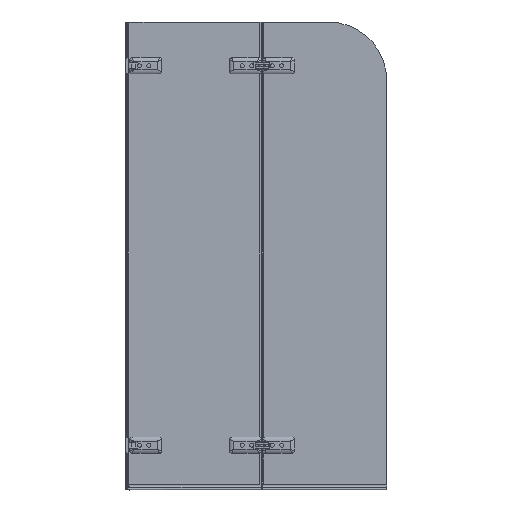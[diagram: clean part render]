
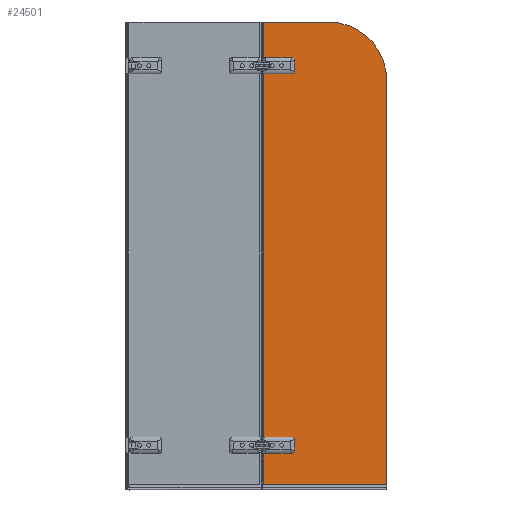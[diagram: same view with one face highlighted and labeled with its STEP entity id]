
A CAD part, left-side view. The second image highlights one B-rep face of the part: STEP entity #24501.
In plain terms, the highlighted planar face has unit normal (-1, 0, 0).
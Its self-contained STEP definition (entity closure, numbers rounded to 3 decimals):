
#395=FACE_BOUND($,#3648,.T.);
#396=FACE_BOUND($,#3649,.T.);
#397=FACE_BOUND($,#3650,.T.);
#3648=EDGE_LOOP($,(#20931));
#3649=EDGE_LOOP($,(#20932));
#3650=EDGE_LOOP($,(#20933,#20934,#20935,#20936,#20937,#20938,#20939,#20940,
#20941,#20942,#20943,#20944,#20945,#20946,#20947,#20948,#20949));
#4472=LINE($,#50669,#6633);
#4478=LINE($,#50717,#6639);
#4931=LINE($,#52866,#7092);
#5716=LINE($,#55711,#7877);
#5814=LINE($,#56114,#7975);
#5815=LINE($,#56117,#7976);
#5816=LINE($,#56119,#7977);
#5817=LINE($,#56123,#7978);
#5818=LINE($,#56126,#7979);
#5819=LINE($,#56128,#7980);
#5820=LINE($,#56132,#7981);
#5821=LINE($,#56135,#7982);
#6633=VECTOR($,#29151,1262.);
#6639=VECTOR($,#29167,116.4);
#7092=VECTOR($,#30496,131.);
#7877=VECTOR($,#32513,422.226);
#7975=VECTOR($,#32837,1385.4);
#7976=VECTOR($,#32840,223.747);
#7977=VECTOR($,#32841,30.747);
#7978=VECTOR($,#32844,18.);
#7979=VECTOR($,#32847,30.747);
#7980=VECTOR($,#32848,30.747);
#7981=VECTOR($,#32851,18.);
#7982=VECTOR($,#32854,29.226);
#8386=CIRCLE($,#25245,6.5);
#8556=CIRCLE($,#25679,6.5);
#8908=CIRCLE($,#26602,200.);
#8909=CIRCLE($,#26603,10.);
#8910=CIRCLE($,#26604,10.);
#8911=CIRCLE($,#26605,10.);
#8912=CIRCLE($,#26606,10.);
#9691=VERTEX_POINT($,#49830);
#9856=VERTEX_POINT($,#50666);
#9857=VERTEX_POINT($,#50668);
#9867=VERTEX_POINT($,#50705);
#9868=VERTEX_POINT($,#50716);
#10130=VERTEX_POINT($,#51931);
#10309=VERTEX_POINT($,#52863);
#10310=VERTEX_POINT($,#52865);
#11050=VERTEX_POINT($,#55709);
#11124=VERTEX_POINT($,#56113);
#11125=VERTEX_POINT($,#56115);
#11126=VERTEX_POINT($,#56118);
#11127=VERTEX_POINT($,#56120);
#11128=VERTEX_POINT($,#56122);
#11129=VERTEX_POINT($,#56124);
#11130=VERTEX_POINT($,#56127);
#11131=VERTEX_POINT($,#56129);
#11132=VERTEX_POINT($,#56131);
#11133=VERTEX_POINT($,#56133);
#12251=EDGE_CURVE($,#9691,#9691,#8386,.T.);
#12519=EDGE_CURVE($,#9857,#9856,#4472,.T.);
#12532=EDGE_CURVE($,#9868,#9867,#4478,.T.);
#12940=EDGE_CURVE($,#10130,#10130,#8556,.T.);
#13227=EDGE_CURVE($,#10310,#10309,#4931,.T.);
#14325=EDGE_CURVE($,#11050,#9867,#5716,.T.);
#14472=EDGE_CURVE($,#11050,#11124,#5814,.T.);
#14473=EDGE_CURVE($,#11125,#11124,#8908,.T.);
#14474=EDGE_CURVE($,#10310,#11125,#5815,.T.);
#14475=EDGE_CURVE($,#10309,#11126,#5816,.T.);
#14476=EDGE_CURVE($,#11127,#11126,#8909,.T.);
#14477=EDGE_CURVE($,#11127,#11128,#5817,.T.);
#14478=EDGE_CURVE($,#11129,#11128,#8910,.T.);
#14479=EDGE_CURVE($,#11129,#9857,#5818,.T.);
#14480=EDGE_CURVE($,#9856,#11130,#5819,.T.);
#14481=EDGE_CURVE($,#11131,#11130,#8911,.T.);
#14482=EDGE_CURVE($,#11131,#11132,#5820,.T.);
#14483=EDGE_CURVE($,#11133,#11132,#8912,.T.);
#14484=EDGE_CURVE($,#11133,#9868,#5821,.T.);
#20931=ORIENTED_EDGE($,*,*,#12251,.T.);
#20932=ORIENTED_EDGE($,*,*,#12940,.T.);
#20933=ORIENTED_EDGE($,*,*,#14325,.F.);
#20934=ORIENTED_EDGE($,*,*,#14472,.T.);
#20935=ORIENTED_EDGE($,*,*,#14473,.F.);
#20936=ORIENTED_EDGE($,*,*,#14474,.F.);
#20937=ORIENTED_EDGE($,*,*,#13227,.T.);
#20938=ORIENTED_EDGE($,*,*,#14475,.T.);
#20939=ORIENTED_EDGE($,*,*,#14476,.F.);
#20940=ORIENTED_EDGE($,*,*,#14477,.T.);
#20941=ORIENTED_EDGE($,*,*,#14478,.F.);
#20942=ORIENTED_EDGE($,*,*,#14479,.T.);
#20943=ORIENTED_EDGE($,*,*,#12519,.T.);
#20944=ORIENTED_EDGE($,*,*,#14480,.T.);
#20945=ORIENTED_EDGE($,*,*,#14481,.F.);
#20946=ORIENTED_EDGE($,*,*,#14482,.T.);
#20947=ORIENTED_EDGE($,*,*,#14483,.F.);
#20948=ORIENTED_EDGE($,*,*,#14484,.T.);
#20949=ORIENTED_EDGE($,*,*,#12532,.T.);
#22114=PLANE($,#26601);
#24501=ADVANCED_FACE($,(#395,#396,#397),#22114,.T.);
#25245=AXIS2_PLACEMENT_3D($,#49831,#28613,#28614);
#25679=AXIS2_PLACEMENT_3D($,#51932,#29928,#29929);
#26601=AXIS2_PLACEMENT_3D($,#56112,#32835,#32836);
#26602=AXIS2_PLACEMENT_3D($,#56116,#32838,#32839);
#26603=AXIS2_PLACEMENT_3D($,#56121,#32842,#32843);
#26604=AXIS2_PLACEMENT_3D($,#56125,#32845,#32846);
#26605=AXIS2_PLACEMENT_3D($,#56130,#32849,#32850);
#26606=AXIS2_PLACEMENT_3D($,#56134,#32852,#32853);
#28613=DIRECTION('center_axis',(1.,0.,0.));
#28614=DIRECTION('ref_axis',(0.,1.,0.));
#29151=DIRECTION($,(0.,0.,-1.));
#29167=DIRECTION($,(0.,0.,-1.));
#29928=DIRECTION('center_axis',(1.,0.,0.));
#29929=DIRECTION('ref_axis',(0.,1.,0.));
#30496=DIRECTION($,(0.,0.,-1.));
#32513=DIRECTION($,(0.,1.,0.));
#32835=DIRECTION('center_axis',(-1.,0.,0.));
#32836=DIRECTION('ref_axis',(0.,-1.,0.));
#32837=DIRECTION($,(0.,0.,1.));
#32838=DIRECTION('center_axis',(1.,0.,0.));
#32839=DIRECTION('ref_axis',(0.,-0.707,0.707));
#32840=DIRECTION($,(0.,-1.,0.));
#32841=DIRECTION($,(0.,-1.,0.));
#32842=DIRECTION('center_axis',(-1.,0.,0.));
#32843=DIRECTION('ref_axis',(0.,-0.707,0.707));
#32844=DIRECTION($,(0.,0.,-1.));
#32845=DIRECTION('center_axis',(-1.,0.,0.));
#32846=DIRECTION('ref_axis',(0.,-0.707,
-0.707));
#32847=DIRECTION($,(0.,1.,0.));
#32848=DIRECTION($,(0.,-1.,0.));
#32849=DIRECTION('center_axis',(-1.,0.,0.));
#32850=DIRECTION('ref_axis',(0.,-0.707,0.707));
#32851=DIRECTION($,(0.,0.,-1.));
#32852=DIRECTION('center_axis',(-1.,0.,0.));
#32853=DIRECTION('ref_axis',(0.,-0.707,
-0.707));
#32854=DIRECTION($,(0.,1.,0.));
#49830=CARTESIAN_POINT('',(1225.833,802.456,174.944));
#49831=CARTESIAN_POINT('Origin',(1225.833,808.956,174.944));
#50666=CARTESIAN_POINT('',(1225.833,872.703,193.944));
#50668=CARTESIAN_POINT('',(1225.833,872.703,1455.944));
#50669=CARTESIAN_POINT($,(1225.833,872.703,184.944));
#50705=CARTESIAN_POINT('',(1225.833,871.182,39.544));
#50716=CARTESIAN_POINT('',(1225.833,871.182,155.944));
#50717=CARTESIAN_POINT($,(1225.833,871.182,164.944));
#51931=CARTESIAN_POINT('',(1225.833,802.456,1474.944));
#51932=CARTESIAN_POINT('Origin',(1225.833,808.956,1474.944));
#52863=CARTESIAN_POINT('',(1225.833,872.703,1493.944));
#52865=CARTESIAN_POINT('',(1225.833,872.703,1624.944));
#52866=CARTESIAN_POINT($,(1225.833,872.703,1484.944));
#55709=CARTESIAN_POINT('',(1225.833,448.956,39.544));
#55711=CARTESIAN_POINT($,(1225.833,448.956,39.544));
#56112=CARTESIAN_POINT('Origin',(1225.833,873.956,34.944));
#56113=CARTESIAN_POINT('',(1225.833,448.956,1424.944));
#56114=CARTESIAN_POINT($,(1225.833,448.956,34.944));
#56115=CARTESIAN_POINT('',(1225.833,648.956,1624.944));
#56116=CARTESIAN_POINT('Origin',(1225.833,648.956,1424.944));
#56117=CARTESIAN_POINT($,(1225.833,873.956,1624.944));
#56118=CARTESIAN_POINT('',(1225.833,841.956,1493.944));
#56119=CARTESIAN_POINT($,(1225.833,873.956,1493.944));
#56120=CARTESIAN_POINT('',(1225.833,831.956,1483.944));
#56121=CARTESIAN_POINT('Origin',(1225.833,841.956,1483.944));
#56122=CARTESIAN_POINT('',(1225.833,831.956,1465.944));
#56123=CARTESIAN_POINT($,(1225.833,831.956,764.444));
#56124=CARTESIAN_POINT('',(1225.833,841.956,1455.944));
#56125=CARTESIAN_POINT('Origin',(1225.833,841.956,1465.944));
#56126=CARTESIAN_POINT($,(1225.833,852.956,1455.944));
#56127=CARTESIAN_POINT('',(1225.833,841.956,193.944));
#56128=CARTESIAN_POINT($,(1225.833,873.956,193.944));
#56129=CARTESIAN_POINT('',(1225.833,831.956,183.944));
#56130=CARTESIAN_POINT('Origin',(1225.833,841.956,183.944));
#56131=CARTESIAN_POINT('',(1225.833,831.956,165.944));
#56132=CARTESIAN_POINT($,(1225.833,831.956,114.444));
#56133=CARTESIAN_POINT('',(1225.833,841.956,155.944));
#56134=CARTESIAN_POINT('Origin',(1225.833,841.956,165.944));
#56135=CARTESIAN_POINT($,(1225.833,852.956,155.944));
